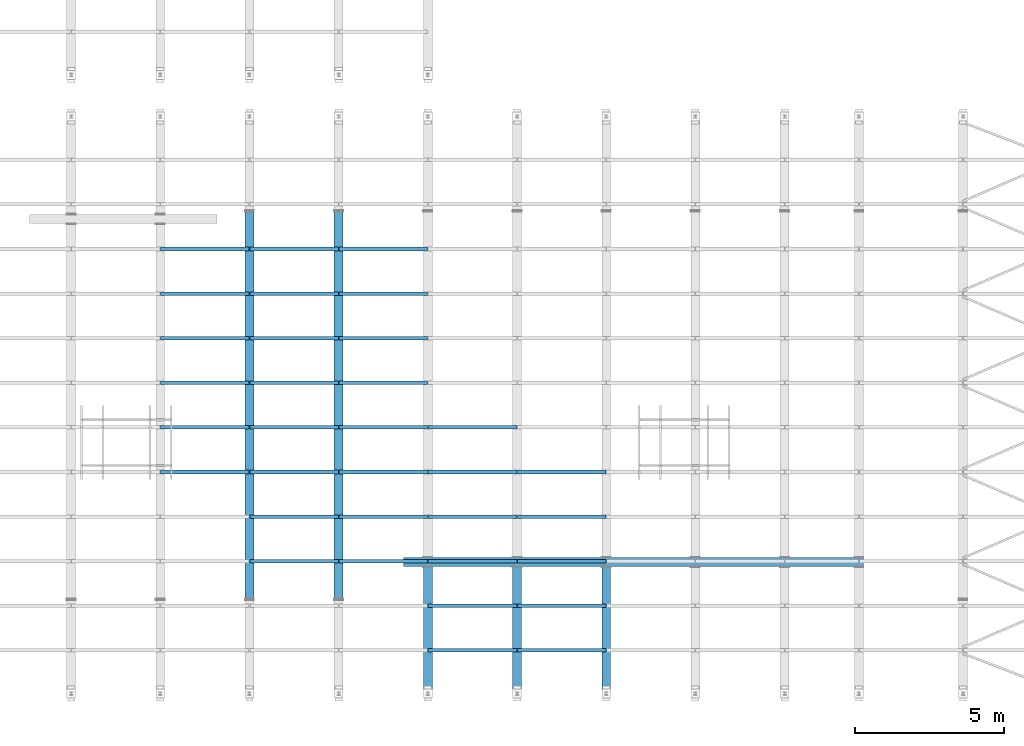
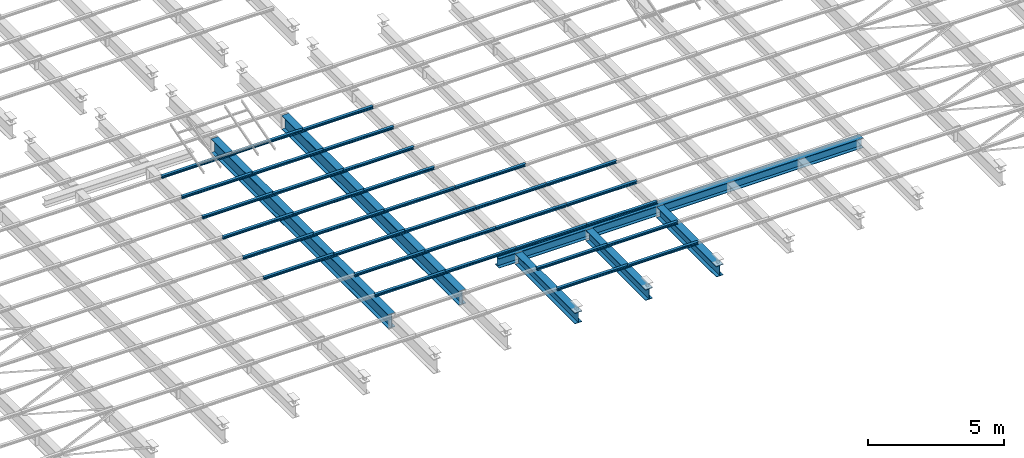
# One storey, part 46 of 139: 39 beams.
"""IFC2X3 building model written with IfcOpenShell, lengths in metres."""

from ifc_helpers import new_model, entity, si_unit, converted_unit, derived_unit, frame, origin, place, context, subcontext, project, spatial, polyline, outline, extrude, material, element, save


model = new_model("IFC2X3")

# Units and contexts
model_context = context("Model", 3, precision=1e-05, world=origin())
body_context = subcontext(model_context, "Body", "Model", "MODEL_VIEW")
ifc_project = project(units=[si_unit("LENGTHUNIT", "METRE"), si_unit("AREAUNIT", "SQUARE_METRE"), si_unit("VOLUMEUNIT", "CUBIC_METRE"), si_unit("MASSUNIT", "GRAM", prefix="KILO"), converted_unit("PLANEANGLEUNIT", "DEGREE", entity("IfcPlaneAngleMeasure", 0.0174532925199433), si_unit("PLANEANGLEUNIT", "RADIAN"), dimensions=[0, 0, 0, 0, 0, 0, 0]), derived_unit("THERMALTRANSMITTANCEUNIT", [(si_unit("POWERUNIT", "WATT"), 1), (si_unit("THERMODYNAMICTEMPERATUREUNIT", "KELVIN"), -1), (si_unit("LENGTHUNIT", "METRE"), -2)]), derived_unit("VOLUMETRICFLOWRATEUNIT", [(si_unit("LENGTHUNIT", "METRE"), 3), (converted_unit("TIMEUNIT", "hour", entity("IfcTimeMeasure", 3600.0), si_unit("TIMEUNIT", "SECOND"), dimensions=[0, 0, 1, 0, 0, 0, 0]), -1), (si_unit("LENGTHUNIT", "METRE"), -1)])], contexts=[model_context])

# Site, building, storey
site_placement = place(None, origin())
site = spatial("IfcSite", under=ifc_project, at=site_placement, Name="TWP_Speiseverteilzentrum SBW VZ II", CompositionType="ELEMENT")
building_placement = place(site_placement, origin())
building = spatial("IfcBuilding", under=site, at=building_placement, Name="Speiseverteilzentrum SBW VZ II", CompositionType="ELEMENT")
storey_placement = place(building_placement, frame((0.0, 0.0, 7.1307)))
storey = spatial("IfcBuildingStorey", under=building, at=storey_placement, Name="Wartung_FFB", CompositionType="ELEMENT", Elevation=7.1307)

# Beams
ifc_material_1 = material(Name="S235")
beam_1_placement = place(storey_placement, frame((66.2294599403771, 15.1100999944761, -0.41), z_axis=(0.0, 0.0, 1.0), x_axis=(-1.22464679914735e-16, -1.0, 0.0)))
element("IfcBeam", 1, at=beam_1_placement, inside=storey, material=ifc_material_1, Name="Stahlträger", context=body_context, shape_type="SweptSolid", body=[
    extrude(outline(polyline([(-0.15, 0.22), (-0.15, 0.199), (-0.00574999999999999, 0.199), (-0.00575000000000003, -0.199), (-0.15, -0.199), (-0.15, -0.22), (0.15, -0.22), (0.15, -0.199), (0.00574999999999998, -0.199), (0.00575000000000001, 0.199), (0.15, 0.199), (0.15, 0.22), (-0.15, 0.22)])), frame((0.0, 0.0, 0.0), z_axis=(0.0, 1.0, 0.0), x_axis=(-1.0, 0.0, 0.0)), (0.0, 0.0, 1.0), 15.470540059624),
])
ifc_material_2 = material(Name="S235")
beam_2_placement = place(storey_placement, frame((61.0500000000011, 26.9020742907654, -0.51), z_axis=(0.0, 0.0, 1.0), x_axis=(-1.0, 0.0, 0.0)))
element("IfcBeam", 2, at=beam_2_placement, inside=storey, material=ifc_material_2, Name="Stahlträger", context=body_context, shape_type="SweptSolid", body=[
    extrude(outline(polyline([(-0.15, 0.32), (-0.15, 0.294), (-0.00675000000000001, 0.294), (-0.00675000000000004, -0.294), (-0.15, -0.294), (-0.15, -0.32), (0.15, -0.32), (0.15, -0.294), (0.00674999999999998, -0.294), (0.00675000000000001, 0.294), (0.15, 0.294), (0.15, 0.32), (-0.15, 0.32)])), frame((0.0, 0.0, 0.0), z_axis=(0.0, 1.0, 0.0), x_axis=(-1.0, 0.0, 0.0)), (0.0, 0.0, 1.0), 13.014),
])
ifc_material_3 = material(Name="S235")
beam_3_placement = place(storey_placement, frame((64.0500000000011, 26.9020742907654, -0.51), z_axis=(0.0, 0.0, 1.0), x_axis=(-1.0, 0.0, 0.0)))
element("IfcBeam", 3, at=beam_3_placement, inside=storey, material=ifc_material_3, Name="Stahlträger", context=body_context, shape_type="SweptSolid", body=[
    extrude(outline(polyline([(-0.15, 0.32), (-0.15, 0.294), (-0.00675000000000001, 0.294), (-0.00675000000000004, -0.294), (-0.15, -0.294), (-0.15, -0.32), (0.15, -0.32), (0.15, -0.294), (0.00674999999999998, -0.294), (0.00675000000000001, 0.294), (0.15, 0.294), (0.15, 0.32), (-0.15, 0.32)])), frame((0.0, 0.0, 0.0), z_axis=(0.0, 1.0, 0.0), x_axis=(-1.0, 0.0, 0.0)), (0.0, 0.0, 1.0), 13.014),
])
ifc_material_4 = material(Name="S235")
beam_4_placement = place(storey_placement, frame((67.0500000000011, 14.9350999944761, -0.435), z_axis=(0.0, 0.0, 1.0), x_axis=(-1.0, 0.0, 0.0)))
element("IfcBeam", 4, at=beam_4_placement, inside=storey, material=ifc_material_4, Name="Stahlträger", context=body_context, shape_type="SweptSolid", body=[
    extrude(outline(polyline([(-0.15, 0.245), (-0.15, 0.222), (-0.00599999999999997, 0.222), (-0.006, -0.222), (-0.15, -0.222), (-0.15, -0.245), (0.15, -0.245), (0.15, -0.222), (0.00600000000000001, -0.222), (0.00600000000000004, 0.222), (0.15, 0.222), (0.15, 0.245), (-0.15, 0.245)])), frame((0.0, 0.0, 0.0), z_axis=(0.0, 1.0, 0.0), x_axis=(-1.0, 0.0, 0.0)), (0.0, 0.0, 1.0), 4.39495141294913),
])
ifc_material_5 = material(Name="S235")
beam_5_placement = place(storey_placement, frame((70.0500000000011, 14.9350999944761, -0.435), z_axis=(0.0, 0.0, 1.0), x_axis=(-1.0, 0.0, 0.0)))
element("IfcBeam", 5, at=beam_5_placement, inside=storey, material=ifc_material_5, Name="Stahlträger", context=body_context, shape_type="SweptSolid", body=[
    extrude(outline(polyline([(-0.15, 0.245), (-0.15, 0.222), (-0.00599999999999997, 0.222), (-0.006, -0.222), (-0.15, -0.222), (-0.15, -0.245), (0.15, -0.245), (0.15, -0.222), (0.00600000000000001, -0.222), (0.00600000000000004, 0.222), (0.15, 0.222), (0.15, 0.245), (-0.15, 0.245)])), frame((0.0, 0.0, 0.0), z_axis=(0.0, 1.0, 0.0), x_axis=(-1.0, 0.0, 0.0)), (0.0, 0.0, 1.0), 4.39495141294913),
])
ifc_material_6 = material(Name="S235")
beam_6_placement = place(storey_placement, frame((73.0500000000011, 14.9350999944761, -0.435), z_axis=(0.0, 0.0, 1.0), x_axis=(-1.0, 0.0, 0.0)))
element("IfcBeam", 6, at=beam_6_placement, inside=storey, material=ifc_material_6, Name="Stahlträger", context=body_context, shape_type="SweptSolid", body=[
    extrude(outline(polyline([(-0.15, 0.245), (-0.15, 0.222), (-0.00599999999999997, 0.222), (-0.006, -0.222), (-0.15, -0.222), (-0.15, -0.245), (0.15, -0.245), (0.15, -0.222), (0.00600000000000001, -0.222), (0.00600000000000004, 0.222), (0.15, 0.222), (0.15, 0.245), (-0.15, 0.245)])), frame((0.0, 0.0, 0.0), z_axis=(0.0, 1.0, 0.0), x_axis=(-1.0, 0.0, 0.0)), (0.0, 0.0, 1.0), 4.39495141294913),
])
ifc_material_7 = material(Name="S235")
beam_7_placement = place(storey_placement, frame((64.0600000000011, 25.6450742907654, -0.133), z_axis=(0.0, 0.0, 1.0), x_axis=(0.0, -1.0, 0.0)))
element("IfcBeam", 7, at=beam_7_placement, inside=storey, material=ifc_material_7, Name="Nebenträger", context=body_context, shape_type="SweptSolid", body=[
    extrude(outline(polyline([(-0.06, 0.0570000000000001), (-0.06, 0.0490000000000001), (-0.00249999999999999, 0.0490000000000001), (-0.0025, -0.0489999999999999), (-0.06, -0.0489999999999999), (-0.06, -0.0569999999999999), (0.06, -0.0569999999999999), (0.06, -0.0489999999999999), (0.0025, -0.0489999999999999), (0.00250000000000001, 0.0490000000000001), (0.06, 0.0490000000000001), (0.06, 0.0570000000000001), (-0.06, 0.0570000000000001)])), frame((0.0, 0.0, 0.0), z_axis=(0.0, 1.0, 0.0), x_axis=(-1.0, 0.0, 0.0)), (0.0, 0.0, 1.0), 2.98000000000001),
])
ifc_material_8 = material(Name="S235")
beam_8_placement = place(storey_placement, frame((58.0600000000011, 25.6450742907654, -0.133), z_axis=(0.0, 0.0, 1.0), x_axis=(0.0, -1.0, 0.0)))
element("IfcBeam", 8, at=beam_8_placement, inside=storey, material=ifc_material_8, Name="Nebenträger", context=body_context, shape_type="SweptSolid", body=[
    extrude(outline(polyline([(-0.06, 0.0570000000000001), (-0.06, 0.0490000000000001), (-0.00249999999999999, 0.0490000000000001), (-0.0025, -0.0489999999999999), (-0.06, -0.0489999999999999), (-0.06, -0.0569999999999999), (0.06, -0.0569999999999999), (0.06, -0.0489999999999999), (0.0025, -0.0489999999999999), (0.00250000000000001, 0.0490000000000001), (0.06, 0.0490000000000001), (0.06, 0.0570000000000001), (-0.06, 0.0570000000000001)])), frame((0.0, 0.0, 0.0), z_axis=(0.0, 1.0, 0.0), x_axis=(-1.0, 0.0, 0.0)), (0.0, 0.0, 1.0), 2.98),
])
ifc_material_9 = material(Name="S235")
beam_9_placement = place(storey_placement, frame((61.0600000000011, 25.6450742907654, -0.133), z_axis=(0.0, 0.0, 1.0), x_axis=(0.0, -1.0, 0.0)))
element("IfcBeam", 9, at=beam_9_placement, inside=storey, material=ifc_material_9, Name="Nebenträger", context=body_context, shape_type="SweptSolid", body=[
    extrude(outline(polyline([(-0.06, 0.0570000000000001), (-0.06, 0.0490000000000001), (-0.00249999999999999, 0.0490000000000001), (-0.0025, -0.0489999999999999), (-0.06, -0.0489999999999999), (-0.06, -0.0569999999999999), (0.06, -0.0569999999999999), (0.06, -0.0489999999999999), (0.0025, -0.0489999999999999), (0.00250000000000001, 0.0490000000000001), (0.06, 0.0490000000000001), (0.06, 0.0570000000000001), (-0.06, 0.0570000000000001)])), frame((0.0, 0.0, 0.0), z_axis=(0.0, 1.0, 0.0), x_axis=(-1.0, 0.0, 0.0)), (0.0, 0.0, 1.0), 2.98),
])
ifc_material_10 = material(Name="S235")
beam_10_placement = place(storey_placement, frame((64.0600000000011, 24.1450742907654, -0.133), z_axis=(0.0, 0.0, 1.0), x_axis=(0.0, -1.0, 0.0)))
element("IfcBeam", 10, at=beam_10_placement, inside=storey, material=ifc_material_10, Name="Nebenträger", context=body_context, shape_type="SweptSolid", body=[
    extrude(outline(polyline([(-0.06, 0.0570000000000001), (-0.06, 0.0490000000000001), (-0.00249999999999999, 0.0490000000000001), (-0.0025, -0.0489999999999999), (-0.06, -0.0489999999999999), (-0.06, -0.0569999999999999), (0.06, -0.0569999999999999), (0.06, -0.0489999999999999), (0.0025, -0.0489999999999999), (0.00250000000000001, 0.0490000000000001), (0.06, 0.0490000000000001), (0.06, 0.0570000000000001), (-0.06, 0.0570000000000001)])), frame((0.0, 0.0, 0.0), z_axis=(0.0, 1.0, 0.0), x_axis=(-1.0, 0.0, 0.0)), (0.0, 0.0, 1.0), 2.98000000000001),
])
ifc_material_11 = material(Name="S235")
beam_11_placement = place(storey_placement, frame((58.0600000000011, 24.1450742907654, -0.133), z_axis=(0.0, 0.0, 1.0), x_axis=(0.0, -1.0, 0.0)))
element("IfcBeam", 11, at=beam_11_placement, inside=storey, material=ifc_material_11, Name="Nebenträger", context=body_context, shape_type="SweptSolid", body=[
    extrude(outline(polyline([(-0.06, 0.0570000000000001), (-0.06, 0.0490000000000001), (-0.00249999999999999, 0.0490000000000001), (-0.0025, -0.0489999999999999), (-0.06, -0.0489999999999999), (-0.06, -0.0569999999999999), (0.06, -0.0569999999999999), (0.06, -0.0489999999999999), (0.0025, -0.0489999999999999), (0.00250000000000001, 0.0490000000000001), (0.06, 0.0490000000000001), (0.06, 0.0570000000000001), (-0.06, 0.0570000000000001)])), frame((0.0, 0.0, 0.0), z_axis=(0.0, 1.0, 0.0), x_axis=(-1.0, 0.0, 0.0)), (0.0, 0.0, 1.0), 2.98),
])
ifc_material_12 = material(Name="S235")
beam_12_placement = place(storey_placement, frame((61.0600000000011, 24.1450742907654, -0.133), z_axis=(0.0, 0.0, 1.0), x_axis=(0.0, -1.0, 0.0)))
element("IfcBeam", 12, at=beam_12_placement, inside=storey, material=ifc_material_12, Name="Nebenträger", context=body_context, shape_type="SweptSolid", body=[
    extrude(outline(polyline([(-0.06, 0.0570000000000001), (-0.06, 0.0490000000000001), (-0.00249999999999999, 0.0490000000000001), (-0.0025, -0.0489999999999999), (-0.06, -0.0489999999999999), (-0.06, -0.0569999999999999), (0.06, -0.0569999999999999), (0.06, -0.0489999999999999), (0.0025, -0.0489999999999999), (0.00250000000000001, 0.0490000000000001), (0.06, 0.0490000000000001), (0.06, 0.0570000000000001), (-0.06, 0.0570000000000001)])), frame((0.0, 0.0, 0.0), z_axis=(0.0, 1.0, 0.0), x_axis=(-1.0, 0.0, 0.0)), (0.0, 0.0, 1.0), 2.98),
])
ifc_material_13 = material(Name="S235")
beam_13_placement = place(storey_placement, frame((64.0600000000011, 22.6450742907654, -0.133), z_axis=(0.0, 0.0, 1.0), x_axis=(0.0, -1.0, 0.0)))
element("IfcBeam", 13, at=beam_13_placement, inside=storey, material=ifc_material_13, Name="Nebenträger", context=body_context, shape_type="SweptSolid", body=[
    extrude(outline(polyline([(-0.06, 0.0570000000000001), (-0.06, 0.0490000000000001), (-0.00249999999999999, 0.0490000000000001), (-0.0025, -0.0489999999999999), (-0.06, -0.0489999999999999), (-0.06, -0.0569999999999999), (0.06, -0.0569999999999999), (0.06, -0.0489999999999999), (0.0025, -0.0489999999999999), (0.00250000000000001, 0.0490000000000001), (0.06, 0.0490000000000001), (0.06, 0.0570000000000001), (-0.06, 0.0570000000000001)])), frame((0.0, 0.0, 0.0), z_axis=(0.0, 1.0, 0.0), x_axis=(-1.0, 0.0, 0.0)), (0.0, 0.0, 1.0), 2.98000000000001),
])
ifc_material_14 = material(Name="S235")
beam_14_placement = place(storey_placement, frame((58.0600000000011, 22.6450742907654, -0.133), z_axis=(0.0, 0.0, 1.0), x_axis=(0.0, -1.0, 0.0)))
element("IfcBeam", 14, at=beam_14_placement, inside=storey, material=ifc_material_14, Name="Nebenträger", context=body_context, shape_type="SweptSolid", body=[
    extrude(outline(polyline([(-0.06, 0.0570000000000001), (-0.06, 0.0490000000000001), (-0.00249999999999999, 0.0490000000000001), (-0.0025, -0.0489999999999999), (-0.06, -0.0489999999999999), (-0.06, -0.0569999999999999), (0.06, -0.0569999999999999), (0.06, -0.0489999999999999), (0.0025, -0.0489999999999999), (0.00250000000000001, 0.0490000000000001), (0.06, 0.0490000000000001), (0.06, 0.0570000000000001), (-0.06, 0.0570000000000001)])), frame((0.0, 0.0, 0.0), z_axis=(0.0, 1.0, 0.0), x_axis=(-1.0, 0.0, 0.0)), (0.0, 0.0, 1.0), 2.98),
])
ifc_material_15 = material(Name="S235")
beam_15_placement = place(storey_placement, frame((61.0600000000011, 22.6450742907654, -0.133), z_axis=(0.0, 0.0, 1.0), x_axis=(0.0, -1.0, 0.0)))
element("IfcBeam", 15, at=beam_15_placement, inside=storey, material=ifc_material_15, Name="Nebenträger", context=body_context, shape_type="SweptSolid", body=[
    extrude(outline(polyline([(-0.06, 0.0570000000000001), (-0.06, 0.0490000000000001), (-0.00249999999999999, 0.0490000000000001), (-0.0025, -0.0489999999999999), (-0.06, -0.0489999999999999), (-0.06, -0.0569999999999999), (0.06, -0.0569999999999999), (0.06, -0.0489999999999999), (0.0025, -0.0489999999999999), (0.00250000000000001, 0.0490000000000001), (0.06, 0.0490000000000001), (0.06, 0.0570000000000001), (-0.06, 0.0570000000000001)])), frame((0.0, 0.0, 0.0), z_axis=(0.0, 1.0, 0.0), x_axis=(-1.0, 0.0, 0.0)), (0.0, 0.0, 1.0), 2.98),
])
ifc_material_16 = material(Name="S235")
beam_16_placement = place(storey_placement, frame((64.0600000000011, 21.1450742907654, -0.133), z_axis=(0.0, 0.0, 1.0), x_axis=(0.0, -1.0, 0.0)))
element("IfcBeam", 16, at=beam_16_placement, inside=storey, material=ifc_material_16, Name="Nebenträger", context=body_context, shape_type="SweptSolid", body=[
    extrude(outline(polyline([(-0.06, 0.0570000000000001), (-0.06, 0.0490000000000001), (-0.00249999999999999, 0.0490000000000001), (-0.0025, -0.0489999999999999), (-0.06, -0.0489999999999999), (-0.06, -0.0569999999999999), (0.06, -0.0569999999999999), (0.06, -0.0489999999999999), (0.0025, -0.0489999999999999), (0.00250000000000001, 0.0490000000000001), (0.06, 0.0490000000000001), (0.06, 0.0570000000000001), (-0.06, 0.0570000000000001)])), frame((0.0, 0.0, 0.0), z_axis=(0.0, 1.0, 0.0), x_axis=(-1.0, 0.0, 0.0)), (0.0, 0.0, 1.0), 2.98000000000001),
])
ifc_material_17 = material(Name="S235")
beam_17_placement = place(storey_placement, frame((58.0600000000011, 21.1450742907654, -0.133), z_axis=(0.0, 0.0, 1.0), x_axis=(0.0, -1.0, 0.0)))
element("IfcBeam", 17, at=beam_17_placement, inside=storey, material=ifc_material_17, Name="Nebenträger", context=body_context, shape_type="SweptSolid", body=[
    extrude(outline(polyline([(-0.06, 0.0570000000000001), (-0.06, 0.0490000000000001), (-0.00249999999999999, 0.0490000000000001), (-0.0025, -0.0489999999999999), (-0.06, -0.0489999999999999), (-0.06, -0.0569999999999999), (0.06, -0.0569999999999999), (0.06, -0.0489999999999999), (0.0025, -0.0489999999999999), (0.00250000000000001, 0.0490000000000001), (0.06, 0.0490000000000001), (0.06, 0.0570000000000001), (-0.06, 0.0570000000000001)])), frame((0.0, 0.0, 0.0), z_axis=(0.0, 1.0, 0.0), x_axis=(-1.0, 0.0, 0.0)), (0.0, 0.0, 1.0), 2.98),
])
ifc_material_18 = material(Name="S235")
beam_18_placement = place(storey_placement, frame((61.0600000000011, 21.1450742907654, -0.133), z_axis=(0.0, 0.0, 1.0), x_axis=(0.0, -1.0, 0.0)))
element("IfcBeam", 18, at=beam_18_placement, inside=storey, material=ifc_material_18, Name="Nebenträger", context=body_context, shape_type="SweptSolid", body=[
    extrude(outline(polyline([(-0.06, 0.0570000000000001), (-0.06, 0.0490000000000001), (-0.00249999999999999, 0.0490000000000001), (-0.0025, -0.0489999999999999), (-0.06, -0.0489999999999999), (-0.06, -0.0569999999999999), (0.06, -0.0569999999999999), (0.06, -0.0489999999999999), (0.0025, -0.0489999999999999), (0.00250000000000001, 0.0490000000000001), (0.06, 0.0490000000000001), (0.06, 0.0570000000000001), (-0.06, 0.0570000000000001)])), frame((0.0, 0.0, 0.0), z_axis=(0.0, 1.0, 0.0), x_axis=(-1.0, 0.0, 0.0)), (0.0, 0.0, 1.0), 2.98),
])
ifc_material_19 = material(Name="S235")
beam_19_placement = place(storey_placement, frame((64.0600000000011, 19.6450742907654, -0.133), z_axis=(0.0, 0.0, 1.0), x_axis=(0.0, -1.0, 0.0)))
element("IfcBeam", 19, at=beam_19_placement, inside=storey, material=ifc_material_19, Name="Nebenträger", context=body_context, shape_type="SweptSolid", body=[
    extrude(outline(polyline([(-0.06, 0.0570000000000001), (-0.06, 0.0490000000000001), (-0.00249999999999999, 0.0490000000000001), (-0.0025, -0.0489999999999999), (-0.06, -0.0489999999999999), (-0.06, -0.0569999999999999), (0.06, -0.0569999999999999), (0.06, -0.0489999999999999), (0.0025, -0.0489999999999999), (0.00250000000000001, 0.0490000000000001), (0.06, 0.0490000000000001), (0.06, 0.0570000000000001), (-0.06, 0.0570000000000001)])), frame((0.0, 0.0, 0.0), z_axis=(0.0, 1.0, 0.0), x_axis=(-1.0, 0.0, 0.0)), (0.0, 0.0, 1.0), 2.98000000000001),
])
ifc_material_20 = material(Name="S235")
beam_20_placement = place(storey_placement, frame((67.0600000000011, 19.6450742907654, -0.133), z_axis=(0.0, 0.0, 1.0), x_axis=(0.0, -1.0, 0.0)))
element("IfcBeam", 20, at=beam_20_placement, inside=storey, material=ifc_material_20, Name="Nebenträger", context=body_context, shape_type="SweptSolid", body=[
    extrude(outline(polyline([(-0.06, 0.0570000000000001), (-0.06, 0.0490000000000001), (-0.00249999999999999, 0.0490000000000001), (-0.0025, -0.0489999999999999), (-0.06, -0.0489999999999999), (-0.06, -0.0569999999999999), (0.06, -0.0569999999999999), (0.06, -0.0489999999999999), (0.0025, -0.0489999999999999), (0.00250000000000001, 0.0490000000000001), (0.06, 0.0490000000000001), (0.06, 0.0570000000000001), (-0.06, 0.0570000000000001)])), frame((0.0, 0.0, 0.0), z_axis=(0.0, 1.0, 0.0), x_axis=(-1.0, 0.0, 0.0)), (0.0, 0.0, 1.0), 2.98),
])
ifc_material_21 = material(Name="S235")
beam_21_placement = place(storey_placement, frame((58.0600000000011, 19.6450742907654, -0.133), z_axis=(0.0, 0.0, 1.0), x_axis=(0.0, -1.0, 0.0)))
element("IfcBeam", 21, at=beam_21_placement, inside=storey, material=ifc_material_21, Name="Nebenträger", context=body_context, shape_type="SweptSolid", body=[
    extrude(outline(polyline([(-0.06, 0.0570000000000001), (-0.06, 0.0490000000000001), (-0.00249999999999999, 0.0490000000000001), (-0.0025, -0.0489999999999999), (-0.06, -0.0489999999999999), (-0.06, -0.0569999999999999), (0.06, -0.0569999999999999), (0.06, -0.0489999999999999), (0.0025, -0.0489999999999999), (0.00250000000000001, 0.0490000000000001), (0.06, 0.0490000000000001), (0.06, 0.0570000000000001), (-0.06, 0.0570000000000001)])), frame((0.0, 0.0, 0.0), z_axis=(0.0, 1.0, 0.0), x_axis=(-1.0, 0.0, 0.0)), (0.0, 0.0, 1.0), 2.98),
])
ifc_material_22 = material(Name="S235")
beam_22_placement = place(storey_placement, frame((61.0600000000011, 19.6450742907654, -0.133), z_axis=(0.0, 0.0, 1.0), x_axis=(0.0, -1.0, 0.0)))
element("IfcBeam", 22, at=beam_22_placement, inside=storey, material=ifc_material_22, Name="Nebenträger", context=body_context, shape_type="SweptSolid", body=[
    extrude(outline(polyline([(-0.06, 0.0570000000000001), (-0.06, 0.0490000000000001), (-0.00249999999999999, 0.0490000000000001), (-0.0025, -0.0489999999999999), (-0.06, -0.0489999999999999), (-0.06, -0.0569999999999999), (0.06, -0.0569999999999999), (0.06, -0.0489999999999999), (0.0025, -0.0489999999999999), (0.00250000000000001, 0.0490000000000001), (0.06, 0.0490000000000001), (0.06, 0.0570000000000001), (-0.06, 0.0570000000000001)])), frame((0.0, 0.0, 0.0), z_axis=(0.0, 1.0, 0.0), x_axis=(-1.0, 0.0, 0.0)), (0.0, 0.0, 1.0), 2.98),
])
ifc_material_23 = material(Name="S235")
beam_23_placement = place(storey_placement, frame((64.0600000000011, 18.1450742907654, -0.133), z_axis=(0.0, 0.0, 1.0), x_axis=(0.0, -1.0, 0.0)))
element("IfcBeam", 23, at=beam_23_placement, inside=storey, material=ifc_material_23, Name="Nebenträger", context=body_context, shape_type="SweptSolid", body=[
    extrude(outline(polyline([(-0.06, 0.0570000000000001), (-0.06, 0.0490000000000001), (-0.00249999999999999, 0.0490000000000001), (-0.0025, -0.0489999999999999), (-0.06, -0.0489999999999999), (-0.06, -0.0569999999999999), (0.06, -0.0569999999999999), (0.06, -0.0489999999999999), (0.0025, -0.0489999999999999), (0.00250000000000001, 0.0490000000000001), (0.06, 0.0490000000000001), (0.06, 0.0570000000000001), (-0.06, 0.0570000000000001)])), frame((0.0, 0.0, 0.0), z_axis=(0.0, 1.0, 0.0), x_axis=(-1.0, 0.0, 0.0)), (0.0, 0.0, 1.0), 2.98000000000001),
])
ifc_material_24 = material(Name="S235")
beam_24_placement = place(storey_placement, frame((67.0600000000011, 18.1450742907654, -0.133), z_axis=(0.0, 0.0, 1.0), x_axis=(0.0, -1.0, 0.0)))
element("IfcBeam", 24, at=beam_24_placement, inside=storey, material=ifc_material_24, Name="Nebenträger", context=body_context, shape_type="SweptSolid", body=[
    extrude(outline(polyline([(-0.06, 0.0570000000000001), (-0.06, 0.0490000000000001), (-0.00249999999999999, 0.0490000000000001), (-0.0025, -0.0489999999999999), (-0.06, -0.0489999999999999), (-0.06, -0.0569999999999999), (0.06, -0.0569999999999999), (0.06, -0.0489999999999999), (0.0025, -0.0489999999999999), (0.00250000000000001, 0.0490000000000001), (0.06, 0.0490000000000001), (0.06, 0.0570000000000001), (-0.06, 0.0570000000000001)])), frame((0.0, 0.0, 0.0), z_axis=(0.0, 1.0, 0.0), x_axis=(-1.0, 0.0, 0.0)), (0.0, 0.0, 1.0), 2.98),
])
ifc_material_25 = material(Name="S235")
beam_25_placement = place(storey_placement, frame((70.0600000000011, 18.1450742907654, -0.133), z_axis=(0.0, 0.0, 1.0), x_axis=(0.0, -1.0, 0.0)))
element("IfcBeam", 25, at=beam_25_placement, inside=storey, material=ifc_material_25, Name="Nebenträger", context=body_context, shape_type="SweptSolid", body=[
    extrude(outline(polyline([(-0.06, 0.0570000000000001), (-0.06, 0.0490000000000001), (-0.00249999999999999, 0.0490000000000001), (-0.0025, -0.0489999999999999), (-0.06, -0.0489999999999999), (-0.06, -0.0569999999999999), (0.06, -0.0569999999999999), (0.06, -0.0489999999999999), (0.0025, -0.0489999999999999), (0.00250000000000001, 0.0490000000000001), (0.06, 0.0490000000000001), (0.06, 0.0570000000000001), (-0.06, 0.0570000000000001)])), frame((0.0, 0.0, 0.0), z_axis=(0.0, 1.0, 0.0), x_axis=(-1.0, 0.0, 0.0)), (0.0, 0.0, 1.0), 2.98),
])
ifc_material_26 = material(Name="S235")
beam_26_placement = place(storey_placement, frame((58.0600000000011, 18.1450742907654, -0.133), z_axis=(0.0, 0.0, 1.0), x_axis=(0.0, -1.0, 0.0)))
element("IfcBeam", 26, at=beam_26_placement, inside=storey, material=ifc_material_26, Name="Nebenträger", context=body_context, shape_type="SweptSolid", body=[
    extrude(outline(polyline([(-0.06, 0.0570000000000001), (-0.06, 0.0490000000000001), (-0.00249999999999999, 0.0490000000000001), (-0.0025, -0.0489999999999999), (-0.06, -0.0489999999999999), (-0.06, -0.0569999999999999), (0.06, -0.0569999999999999), (0.06, -0.0489999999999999), (0.0025, -0.0489999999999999), (0.00250000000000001, 0.0490000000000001), (0.06, 0.0490000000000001), (0.06, 0.0570000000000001), (-0.06, 0.0570000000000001)])), frame((0.0, 0.0, 0.0), z_axis=(0.0, 1.0, 0.0), x_axis=(-1.0, 0.0, 0.0)), (0.0, 0.0, 1.0), 2.98),
])
ifc_material_27 = material(Name="S235")
beam_27_placement = place(storey_placement, frame((61.0600000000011, 18.1450742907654, -0.133), z_axis=(0.0, 0.0, 1.0), x_axis=(0.0, -1.0, 0.0)))
element("IfcBeam", 27, at=beam_27_placement, inside=storey, material=ifc_material_27, Name="Nebenträger", context=body_context, shape_type="SweptSolid", body=[
    extrude(outline(polyline([(-0.06, 0.0570000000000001), (-0.06, 0.0490000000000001), (-0.00249999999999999, 0.0490000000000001), (-0.0025, -0.0489999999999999), (-0.06, -0.0489999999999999), (-0.06, -0.0569999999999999), (0.06, -0.0569999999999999), (0.06, -0.0489999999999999), (0.0025, -0.0489999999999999), (0.00250000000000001, 0.0490000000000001), (0.06, 0.0490000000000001), (0.06, 0.0570000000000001), (-0.06, 0.0570000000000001)])), frame((0.0, 0.0, 0.0), z_axis=(0.0, 1.0, 0.0), x_axis=(-1.0, 0.0, 0.0)), (0.0, 0.0, 1.0), 2.98),
])
ifc_material_28 = material(Name="S235")
beam_28_placement = place(storey_placement, frame((64.0600000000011, 16.6450742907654, -0.133), z_axis=(0.0, 0.0, 1.0), x_axis=(0.0, -1.0, 0.0)))
element("IfcBeam", 28, at=beam_28_placement, inside=storey, material=ifc_material_28, Name="Nebenträger", context=body_context, shape_type="SweptSolid", body=[
    extrude(outline(polyline([(-0.06, 0.0570000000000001), (-0.06, 0.0490000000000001), (-0.00249999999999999, 0.0490000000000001), (-0.0025, -0.0489999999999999), (-0.06, -0.0489999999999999), (-0.06, -0.0569999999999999), (0.06, -0.0569999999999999), (0.06, -0.0489999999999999), (0.0025, -0.0489999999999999), (0.00250000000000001, 0.0490000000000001), (0.06, 0.0490000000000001), (0.06, 0.0570000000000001), (-0.06, 0.0570000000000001)])), frame((0.0, 0.0, 0.0), z_axis=(0.0, 1.0, 0.0), x_axis=(-1.0, 0.0, 0.0)), (0.0, 0.0, 1.0), 2.98000000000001),
])
ifc_material_29 = material(Name="S235")
beam_29_placement = place(storey_placement, frame((67.0600000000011, 16.6450742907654, -0.133), z_axis=(0.0, 0.0, 1.0), x_axis=(0.0, -1.0, 0.0)))
element("IfcBeam", 29, at=beam_29_placement, inside=storey, material=ifc_material_29, Name="Nebenträger", context=body_context, shape_type="SweptSolid", body=[
    extrude(outline(polyline([(-0.06, 0.0570000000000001), (-0.06, 0.0490000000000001), (-0.00249999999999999, 0.0490000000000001), (-0.0025, -0.0489999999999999), (-0.06, -0.0489999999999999), (-0.06, -0.0569999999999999), (0.06, -0.0569999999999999), (0.06, -0.0489999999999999), (0.0025, -0.0489999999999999), (0.00250000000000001, 0.0490000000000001), (0.06, 0.0490000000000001), (0.06, 0.0570000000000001), (-0.06, 0.0570000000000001)])), frame((0.0, 0.0, 0.0), z_axis=(0.0, 1.0, 0.0), x_axis=(-1.0, 0.0, 0.0)), (0.0, 0.0, 1.0), 2.98),
])
ifc_material_30 = material(Name="S235")
beam_30_placement = place(storey_placement, frame((70.0600000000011, 16.6450742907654, -0.133), z_axis=(0.0, 0.0, 1.0), x_axis=(0.0, -1.0, 0.0)))
element("IfcBeam", 30, at=beam_30_placement, inside=storey, material=ifc_material_30, Name="Nebenträger", context=body_context, shape_type="SweptSolid", body=[
    extrude(outline(polyline([(-0.06, 0.0570000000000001), (-0.06, 0.0490000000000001), (-0.00249999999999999, 0.0490000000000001), (-0.0025, -0.0489999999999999), (-0.06, -0.0489999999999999), (-0.06, -0.0569999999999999), (0.06, -0.0569999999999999), (0.06, -0.0489999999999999), (0.0025, -0.0489999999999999), (0.00250000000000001, 0.0490000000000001), (0.06, 0.0490000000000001), (0.06, 0.0570000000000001), (-0.06, 0.0570000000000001)])), frame((0.0, 0.0, 0.0), z_axis=(0.0, 1.0, 0.0), x_axis=(-1.0, 0.0, 0.0)), (0.0, 0.0, 1.0), 2.98),
])
ifc_material_31 = material(Name="S235")
beam_31_placement = place(storey_placement, frame((61.0600000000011, 16.6450742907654, -0.133), z_axis=(0.0, 0.0, 1.0), x_axis=(0.0, -1.0, 0.0)))
element("IfcBeam", 31, at=beam_31_placement, inside=storey, material=ifc_material_31, Name="Nebenträger", context=body_context, shape_type="SweptSolid", body=[
    extrude(outline(polyline([(-0.06, 0.0570000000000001), (-0.06, 0.0490000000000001), (-0.00249999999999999, 0.0490000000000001), (-0.0025, -0.0489999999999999), (-0.06, -0.0489999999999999), (-0.06, -0.0569999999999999), (0.06, -0.0569999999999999), (0.06, -0.0489999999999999), (0.0025, -0.0489999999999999), (0.00250000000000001, 0.0490000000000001), (0.06, 0.0490000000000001), (0.06, 0.0570000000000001), (-0.06, 0.0570000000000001)])), frame((0.0, 0.0, 0.0), z_axis=(0.0, 1.0, 0.0), x_axis=(-1.0, 0.0, 0.0)), (0.0, 0.0, 1.0), 2.98),
])
ifc_material_32 = material(Name="S235")
beam_32_placement = place(storey_placement, frame((64.0600000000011, 15.1450742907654, -0.133), z_axis=(0.0, 0.0, 1.0), x_axis=(0.0, -1.0, 0.0)))
element("IfcBeam", 32, at=beam_32_placement, inside=storey, material=ifc_material_32, Name="Nebenträger", context=body_context, shape_type="SweptSolid", body=[
    extrude(outline(polyline([(-0.06, 0.0570000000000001), (-0.06, 0.0490000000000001), (-0.00249999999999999, 0.0490000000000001), (-0.0025, -0.0489999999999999), (-0.06, -0.0489999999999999), (-0.06, -0.0569999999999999), (0.06, -0.0569999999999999), (0.06, -0.0489999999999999), (0.0025, -0.0489999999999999), (0.00250000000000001, 0.0490000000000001), (0.06, 0.0490000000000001), (0.06, 0.0570000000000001), (-0.06, 0.0570000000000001)])), frame((0.0, 0.0, 0.0), z_axis=(0.0, 1.0, 0.0), x_axis=(-1.0, 0.0, 0.0)), (0.0, 0.0, 1.0), 2.98000000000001),
])
ifc_material_33 = material(Name="S235")
beam_33_placement = place(storey_placement, frame((67.0600000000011, 15.1450742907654, -0.133), z_axis=(0.0, 0.0, 1.0), x_axis=(0.0, -1.0, 0.0)))
element("IfcBeam", 33, at=beam_33_placement, inside=storey, material=ifc_material_33, Name="Nebenträger", context=body_context, shape_type="SweptSolid", body=[
    extrude(outline(polyline([(-0.06, 0.0570000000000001), (-0.06, 0.0490000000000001), (-0.00249999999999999, 0.0490000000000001), (-0.0025, -0.0489999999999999), (-0.06, -0.0489999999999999), (-0.06, -0.0569999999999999), (0.06, -0.0569999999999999), (0.06, -0.0489999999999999), (0.0025, -0.0489999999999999), (0.00250000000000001, 0.0490000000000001), (0.06, 0.0490000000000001), (0.06, 0.0570000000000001), (-0.06, 0.0570000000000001)])), frame((0.0, 0.0, 0.0), z_axis=(0.0, 1.0, 0.0), x_axis=(-1.0, 0.0, 0.0)), (0.0, 0.0, 1.0), 2.98),
])
ifc_material_34 = material(Name="S235")
beam_34_placement = place(storey_placement, frame((70.0600000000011, 15.1450742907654, -0.133), z_axis=(0.0, 0.0, 1.0), x_axis=(0.0, -1.0, 0.0)))
element("IfcBeam", 34, at=beam_34_placement, inside=storey, material=ifc_material_34, Name="Nebenträger", context=body_context, shape_type="SweptSolid", body=[
    extrude(outline(polyline([(-0.06, 0.0570000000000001), (-0.06, 0.0490000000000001), (-0.00249999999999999, 0.0490000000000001), (-0.0025, -0.0489999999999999), (-0.06, -0.0489999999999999), (-0.06, -0.0569999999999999), (0.06, -0.0569999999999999), (0.06, -0.0489999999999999), (0.0025, -0.0489999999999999), (0.00250000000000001, 0.0490000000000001), (0.06, 0.0490000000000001), (0.06, 0.0570000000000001), (-0.06, 0.0570000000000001)])), frame((0.0, 0.0, 0.0), z_axis=(0.0, 1.0, 0.0), x_axis=(-1.0, 0.0, 0.0)), (0.0, 0.0, 1.0), 2.98),
])
ifc_material_35 = material(Name="S235")
beam_35_placement = place(storey_placement, frame((61.0600000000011, 15.1450742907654, -0.133), z_axis=(0.0, 0.0, 1.0), x_axis=(0.0, -1.0, 0.0)))
element("IfcBeam", 35, at=beam_35_placement, inside=storey, material=ifc_material_35, Name="Nebenträger", context=body_context, shape_type="SweptSolid", body=[
    extrude(outline(polyline([(-0.06, 0.0570000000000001), (-0.06, 0.0490000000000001), (-0.00249999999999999, 0.0490000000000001), (-0.0025, -0.0489999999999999), (-0.06, -0.0489999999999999), (-0.06, -0.0569999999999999), (0.06, -0.0569999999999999), (0.06, -0.0489999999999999), (0.0025, -0.0489999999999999), (0.00250000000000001, 0.0490000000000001), (0.06, 0.0490000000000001), (0.06, 0.0570000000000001), (-0.06, 0.0570000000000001)])), frame((0.0, 0.0, 0.0), z_axis=(0.0, 1.0, 0.0), x_axis=(-1.0, 0.0, 0.0)), (0.0, 0.0, 1.0), 2.98),
])
ifc_material_36 = material(Name="S235")
beam_36_placement = place(storey_placement, frame((67.0600000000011, 13.6450742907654, -0.133), z_axis=(0.0, 0.0, 1.0), x_axis=(0.0, -1.0, 0.0)))
element("IfcBeam", 36, at=beam_36_placement, inside=storey, material=ifc_material_36, Name="Nebenträger", context=body_context, shape_type="SweptSolid", body=[
    extrude(outline(polyline([(-0.06, 0.0570000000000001), (-0.06, 0.0490000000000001), (-0.00249999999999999, 0.0490000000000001), (-0.0025, -0.0489999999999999), (-0.06, -0.0489999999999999), (-0.06, -0.0569999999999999), (0.06, -0.0569999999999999), (0.06, -0.0489999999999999), (0.0025, -0.0489999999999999), (0.00250000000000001, 0.0490000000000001), (0.06, 0.0490000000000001), (0.06, 0.0570000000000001), (-0.06, 0.0570000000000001)])), frame((0.0, 0.0, 0.0), z_axis=(0.0, 1.0, 0.0), x_axis=(-1.0, 0.0, 0.0)), (0.0, 0.0, 1.0), 2.98),
])
ifc_material_37 = material(Name="S235")
beam_37_placement = place(storey_placement, frame((70.0600000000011, 13.6450742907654, -0.133), z_axis=(0.0, 0.0, 1.0), x_axis=(0.0, -1.0, 0.0)))
element("IfcBeam", 37, at=beam_37_placement, inside=storey, material=ifc_material_37, Name="Nebenträger", context=body_context, shape_type="SweptSolid", body=[
    extrude(outline(polyline([(-0.06, 0.0570000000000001), (-0.06, 0.0490000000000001), (-0.00249999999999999, 0.0490000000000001), (-0.0025, -0.0489999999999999), (-0.06, -0.0489999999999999), (-0.06, -0.0569999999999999), (0.06, -0.0569999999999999), (0.06, -0.0489999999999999), (0.0025, -0.0489999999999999), (0.00250000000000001, 0.0490000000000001), (0.06, 0.0490000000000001), (0.06, 0.0570000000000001), (-0.06, 0.0570000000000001)])), frame((0.0, 0.0, 0.0), z_axis=(0.0, 1.0, 0.0), x_axis=(-1.0, 0.0, 0.0)), (0.0, 0.0, 1.0), 2.98),
])
ifc_material_38 = material(Name="S235")
beam_38_placement = place(storey_placement, frame((67.0600000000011, 12.1450742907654, -0.133), z_axis=(0.0, 0.0, 1.0), x_axis=(0.0, -1.0, 0.0)))
element("IfcBeam", 38, at=beam_38_placement, inside=storey, material=ifc_material_38, Name="Nebenträger", context=body_context, shape_type="SweptSolid", body=[
    extrude(outline(polyline([(-0.06, 0.0570000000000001), (-0.06, 0.0490000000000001), (-0.00249999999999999, 0.0490000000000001), (-0.0025, -0.0489999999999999), (-0.06, -0.0489999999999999), (-0.06, -0.0569999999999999), (0.06, -0.0569999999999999), (0.06, -0.0489999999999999), (0.0025, -0.0489999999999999), (0.00250000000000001, 0.0490000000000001), (0.06, 0.0490000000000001), (0.06, 0.0570000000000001), (-0.06, 0.0570000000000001)])), frame((0.0, 0.0, 0.0), z_axis=(0.0, 1.0, 0.0), x_axis=(-1.0, 0.0, 0.0)), (0.0, 0.0, 1.0), 2.98),
])
ifc_material_39 = material(Name="S235")
beam_39_placement = place(storey_placement, frame((70.0600000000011, 12.1450742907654, -0.133), z_axis=(0.0, 0.0, 1.0), x_axis=(0.0, -1.0, 0.0)))
element("IfcBeam", 39, at=beam_39_placement, inside=storey, material=ifc_material_39, Name="Nebenträger", context=body_context, shape_type="SweptSolid", body=[
    extrude(outline(polyline([(-0.06, 0.0570000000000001), (-0.06, 0.0490000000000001), (-0.00249999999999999, 0.0490000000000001), (-0.0025, -0.0489999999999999), (-0.06, -0.0489999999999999), (-0.06, -0.0569999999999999), (0.06, -0.0569999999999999), (0.06, -0.0489999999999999), (0.0025, -0.0489999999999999), (0.00250000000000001, 0.0490000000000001), (0.06, 0.0490000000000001), (0.06, 0.0570000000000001), (-0.06, 0.0570000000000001)])), frame((0.0, 0.0, 0.0), z_axis=(0.0, 1.0, 0.0), x_axis=(-1.0, 0.0, 0.0)), (0.0, 0.0, 1.0), 2.98),
])

save(model, "model.ifc")
